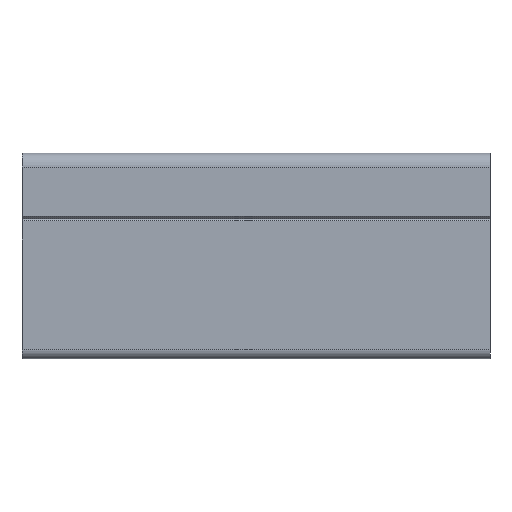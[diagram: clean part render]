
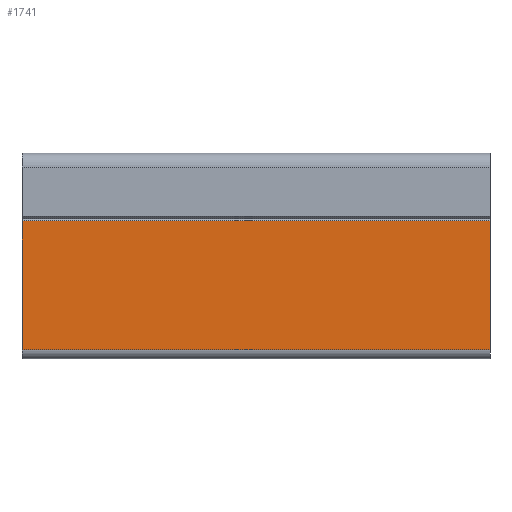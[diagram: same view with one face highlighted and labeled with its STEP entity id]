
A CAD part, front view. The second image highlights one B-rep face of the part: STEP entity #1741.
In plain terms, the highlighted planar face has unit normal (0, -1, 0).
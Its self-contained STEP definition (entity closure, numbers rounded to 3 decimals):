
#13 = CARTESIAN_POINT ( 'NONE',  ( 100., 0., 2. ) ) ;
#34 = PLANE ( 'NONE',  #629 ) ;
#62 = ORIENTED_EDGE ( 'NONE', *, *, #733, .T. ) ;
#79 = CARTESIAN_POINT ( 'NONE',  ( 100., 0., 2. ) ) ;
#97 = DIRECTION ( 'NONE',  ( -1., 0., 0. ) ) ;
#168 = ORIENTED_EDGE ( 'NONE', *, *, #1843, .F. ) ;
#220 = DIRECTION ( 'NONE',  ( -1., 0., 0. ) ) ;
#227 = VERTEX_POINT ( 'NONE', #953 ) ;
#257 = DIRECTION ( 'NONE',  ( 0., 1., 0. ) ) ;
#322 = CARTESIAN_POINT ( 'NONE',  ( 0., 0., 29.5 ) ) ;
#377 = LINE ( 'NONE', #2069, #2158 ) ;
#390 = DIRECTION ( 'NONE',  ( 0., 0., -1. ) ) ;
#412 = DIRECTION ( 'NONE',  ( 0., 0., 1. ) ) ;
#629 = AXIS2_PLACEMENT_3D ( 'NONE', #2151, #257, #412 ) ;
#638 = EDGE_CURVE ( 'NONE', #934, #771, #693, .T. ) ;
#693 = LINE ( 'NONE', #1589, #1560 ) ;
#733 = EDGE_CURVE ( 'NONE', #934, #1635, #377, .T. ) ;
#771 = VERTEX_POINT ( 'NONE', #79 ) ;
#796 = EDGE_CURVE ( 'NONE', #1635, #227, #1748, .T. ) ;
#820 = DIRECTION ( 'NONE',  ( 0., 0., -1. ) ) ;
#934 = VERTEX_POINT ( 'NONE', #1304 ) ;
#953 = CARTESIAN_POINT ( 'NONE',  ( 0., 0., 2. ) ) ;
#1244 = VECTOR ( 'NONE', #820, 1000. ) ;
#1304 = CARTESIAN_POINT ( 'NONE',  ( 100., 0., 29.5 ) ) ;
#1330 = EDGE_LOOP ( 'NONE', ( #2147, #168, #1947, #62 ) ) ;
#1560 = VECTOR ( 'NONE', #390, 1000. ) ;
#1589 = CARTESIAN_POINT ( 'NONE',  ( 100., 0., 29.5 ) ) ;
#1635 = VERTEX_POINT ( 'NONE', #2247 ) ;
#1700 = VECTOR ( 'NONE', #220, 1000. ) ;
#1741 = ADVANCED_FACE ( 'NONE', ( #1930 ), #34, .F. ) ;
#1748 = LINE ( 'NONE', #322, #1244 ) ;
#1843 = EDGE_CURVE ( 'NONE', #771, #227, #2170, .T. ) ;
#1930 = FACE_OUTER_BOUND ( 'NONE', #1330, .T. ) ;
#1947 = ORIENTED_EDGE ( 'NONE', *, *, #638, .F. ) ;
#2069 = CARTESIAN_POINT ( 'NONE',  ( 100., 0., 29.5 ) ) ;
#2147 = ORIENTED_EDGE ( 'NONE', *, *, #796, .T. ) ;
#2151 = CARTESIAN_POINT ( 'NONE',  ( 100., 0., 29.5 ) ) ;
#2158 = VECTOR ( 'NONE', #97, 1000. ) ;
#2170 = LINE ( 'NONE', #13, #1700 ) ;
#2247 = CARTESIAN_POINT ( 'NONE',  ( 0., 0., 29.5 ) ) ;
